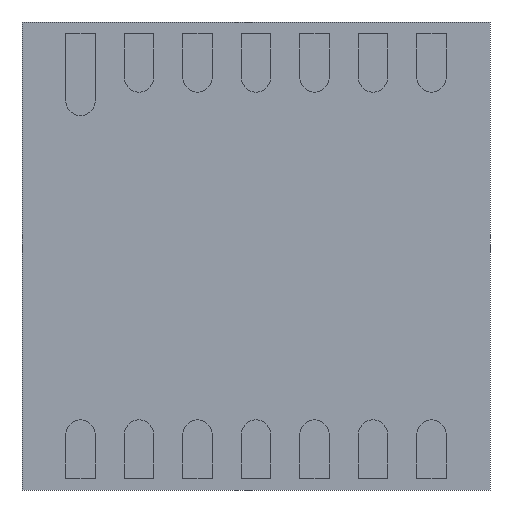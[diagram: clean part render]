
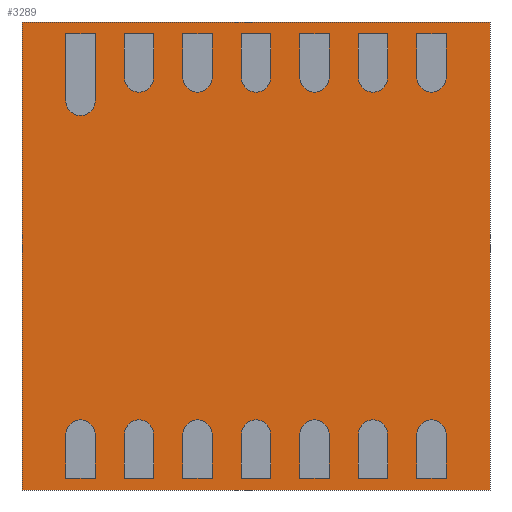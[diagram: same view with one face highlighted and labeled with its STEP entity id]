
A CAD part, front view. The second image highlights one B-rep face of the part: STEP entity #3289.
In plain terms, the highlighted planar face has unit normal (0, -1, 0).
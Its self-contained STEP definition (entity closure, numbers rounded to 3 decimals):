
#3132 = CARTESIAN_POINT ( 'NONE',  ( -2., 0.05, -2. ) ) ;
#3133 = VERTEX_POINT ( 'NONE', #3132 ) ;
#3134 = CARTESIAN_POINT ( 'NONE',  ( -2., 0.05, 2. ) ) ;
#3135 = VERTEX_POINT ( 'NONE', #3134 ) ;
#3136 = CARTESIAN_POINT ( 'NONE',  ( -2., 0.05, 2. ) ) ;
#3137 = DIRECTION ( 'NONE',  ( 0., 0., 1. ) ) ;
#3138 = VECTOR ( 'NONE', #3137, 1000. ) ;
#3139 = LINE ( 'NONE', #3136, #3138 ) ;
#3140 = EDGE_CURVE ( 'NONE', #3133, #3135, #3139, .T. ) ;
#3172 = CARTESIAN_POINT ( 'NONE',  ( 2., 0.05, 2. ) ) ;
#3173 = VERTEX_POINT ( 'NONE', #3172 ) ;
#3174 = CARTESIAN_POINT ( 'NONE',  ( 2., 0.05, 2. ) ) ;
#3175 = DIRECTION ( 'NONE',  ( 1., 0., 0. ) ) ;
#3176 = VECTOR ( 'NONE', #3175, 1000. ) ;
#3177 = LINE ( 'NONE', #3174, #3176 ) ;
#3178 = EDGE_CURVE ( 'NONE', #3135, #3173, #3177, .T. ) ;
#3203 = CARTESIAN_POINT ( 'NONE',  ( 2., 0.05, -2. ) ) ;
#3204 = VERTEX_POINT ( 'NONE', #3203 ) ;
#3205 = CARTESIAN_POINT ( 'NONE',  ( 2., 0.05, 2. ) ) ;
#3206 = DIRECTION ( 'NONE',  ( 0., 0., -1. ) ) ;
#3207 = VECTOR ( 'NONE', #3206, 1000. ) ;
#3208 = LINE ( 'NONE', #3205, #3207 ) ;
#3209 = EDGE_CURVE ( 'NONE', #3173, #3204, #3208, .T. ) ;
#3234 = CARTESIAN_POINT ( 'NONE',  ( 2., 0.05, -2. ) ) ;
#3235 = DIRECTION ( 'NONE',  ( -1., 0., 0. ) ) ;
#3236 = VECTOR ( 'NONE', #3235, 1000. ) ;
#3237 = LINE ( 'NONE', #3234, #3236 ) ;
#3238 = EDGE_CURVE ( 'NONE', #3204, #3133, #3237, .T. ) ;
#3278 = ORIENTED_EDGE ( 'NONE', *, *, #3140, .F. ) ;
#3279 = ORIENTED_EDGE ( 'NONE', *, *, #3238, .F. ) ;
#3280 = ORIENTED_EDGE ( 'NONE', *, *, #3209, .F. ) ;
#3281 = ORIENTED_EDGE ( 'NONE', *, *, #3178, .F. ) ;
#3282 = EDGE_LOOP ( 'NONE', ( #3278, #3279, #3280, #3281 ) ) ;
#3283 = FACE_OUTER_BOUND ( 'NONE', #3282, .T. ) ;
#3284 = CARTESIAN_POINT ( 'NONE',  ( 0., 0.05, 0. ) ) ;
#3285 = DIRECTION ( 'NONE',  ( 0., 1., 0. ) ) ;
#3286 = DIRECTION ( 'NONE',  ( 0., 0., 1. ) ) ;
#3287 = AXIS2_PLACEMENT_3D ( 'NONE', #3284, #3285, #3286 ) ;
#3288 = PLANE ( 'NONE', #3287 ) ;
#3289 = ADVANCED_FACE ( 'NONE', ( #3283 ), #3288, .F. ) ;
